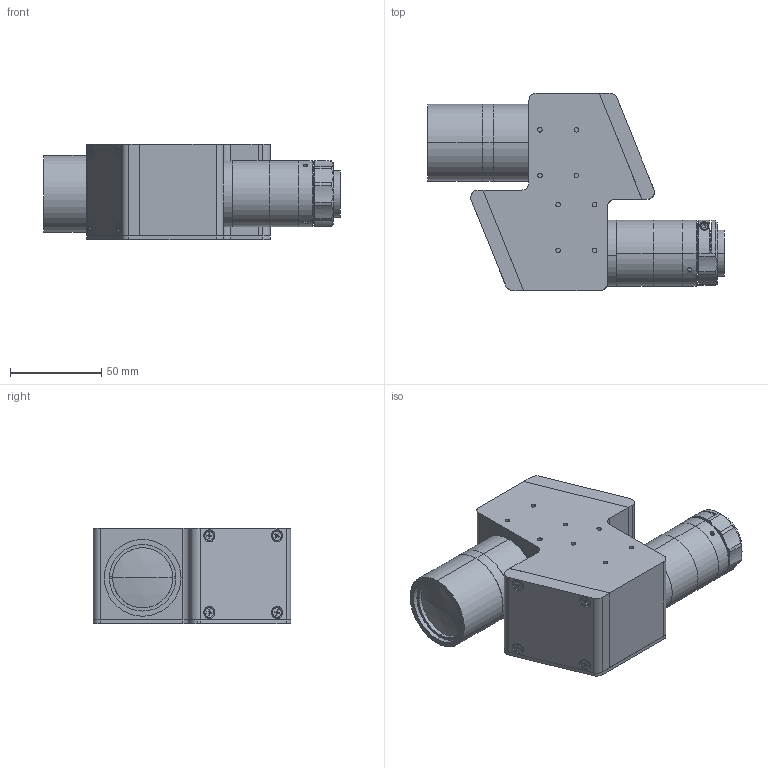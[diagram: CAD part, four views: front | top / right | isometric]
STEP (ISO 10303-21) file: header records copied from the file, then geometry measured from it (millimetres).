
FILE_DESCRIPTION (( 'STEP AP203' ), '1' );
FILE_NAME ('XF-MH08X329.STEP', '2020-08-24T07:17:02', ( 'canrill-02' ), ( '' ), 'SwSTEP 2.0', 'SolidWorks 2014', '' );
FILE_SCHEMA (( 'CONFIG_CONTROL_DESIGN' ));
Length unit declared in the file: millimetre
Products named in the file (1): XF-MH08X329
Bounding box: 162.47 x 108 x 52 mm (x, y, z)
Surface area: 56159.1 mm2 (no closed solid volume)
Topology: 0 solids, 31 shells, 409 faces, 1324 edges, 911 vertices
Faces by surface type: plane 207, cylinder 157, cone 41, sphere 2, torus 2
Entity records: 14864 total; most frequent: CARTESIAN_POINT 2964, DIRECTION 2586, ORIENTED_EDGE 2165, EDGE_CURVE 1322, VERTEX_POINT 911, AXIS2_PLACEMENT_3D 877, LINE 832, VECTOR 832
